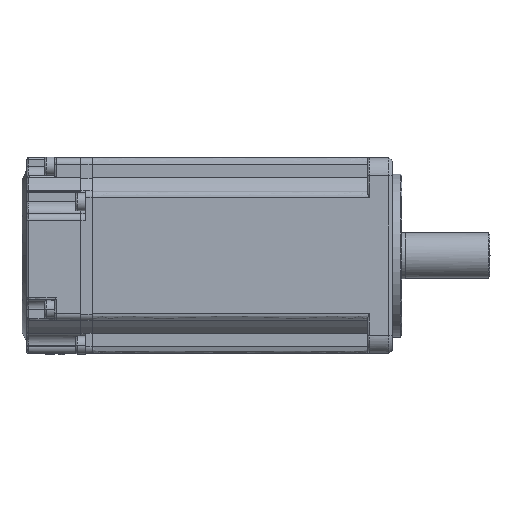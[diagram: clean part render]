
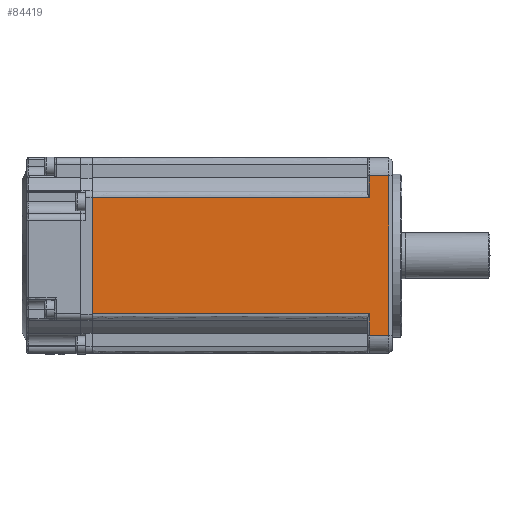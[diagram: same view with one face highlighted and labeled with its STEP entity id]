
A CAD part, front view. The second image highlights one B-rep face of the part: STEP entity #84419.
In plain terms, the highlighted free-form (B-spline) face has degree [1, 1] with [2, 2] control points.
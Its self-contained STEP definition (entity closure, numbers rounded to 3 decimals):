
#484 = ORIENTED_EDGE ( 'NONE', *, *, #108458, .T. ) ;
#2085 = B_SPLINE_CURVE_WITH_KNOTS ( 'NONE', 1,
 ( #47683, #133209 ),
 .UNSPECIFIED., .F., .F.,
 ( 2, 2 ),
 ( 0., 1. ),
 .UNSPECIFIED. ) ;
#9059 = CARTESIAN_POINT ( 'NONE',  ( 12.2, -30., 17.8 ) ) ;
#12287 = ORIENTED_EDGE ( 'NONE', *, *, #78275, .T. ) ;
#19597 = B_SPLINE_CURVE_WITH_KNOTS ( 'NONE', 1,
 ( #91610, #114380 ),
 .UNSPECIFIED., .F., .F.,
 ( 2, 2 ),
 ( 0., 1. ),
 .UNSPECIFIED. ) ;
#22373 = B_SPLINE_CURVE_WITH_KNOTS ( 'NONE', 1,
 ( #105873, #105188 ),
 .UNSPECIFIED., .F., .F.,
 ( 2, 2 ),
 ( 0., 1. ),
 .UNSPECIFIED. ) ;
#26520 = VERTEX_POINT ( 'NONE', #36885 ) ;
#27002 = CARTESIAN_POINT ( 'NONE',  ( 18.2, -30., 24.5 ) ) ;
#29985 = VERTEX_POINT ( 'NONE', #108629 ) ;
#32619 = CARTESIAN_POINT ( 'NONE',  ( 18.2, -30., -24.5 ) ) ;
#32766 = CARTESIAN_POINT ( 'NONE',  ( -72.8, -30., 24.5 ) ) ;
#36885 = CARTESIAN_POINT ( 'NONE',  ( 12.2, -30., 17.8 ) ) ;
#37074 = VERTEX_POINT ( 'NONE', #43608 ) ;
#40264 = CARTESIAN_POINT ( 'NONE',  ( 12.2, -30., 24.5 ) ) ;
#43608 = CARTESIAN_POINT ( 'NONE',  ( 18.2, -30., -24.5 ) ) ;
#46146 = VERTEX_POINT ( 'NONE', #64927 ) ;
#47683 = CARTESIAN_POINT ( 'NONE',  ( 12.2, -30., -17.8 ) ) ;
#48839 = ORIENTED_EDGE ( 'NONE', *, *, #100642, .T. ) ;
#49802 = ORIENTED_EDGE ( 'NONE', *, *, #124366, .T. ) ;
#52238 = CARTESIAN_POINT ( 'NONE',  ( 12.2, -30., -24.5 ) ) ;
#58056 = EDGE_CURVE ( 'NONE', #29985, #89152, #22373, .T. ) ;
#58536 = B_SPLINE_CURVE_WITH_KNOTS ( 'NONE', 1,
 ( #9059, #124968 ),
 .UNSPECIFIED., .F., .F.,
 ( 2, 2 ),
 ( 0., 1. ),
 .UNSPECIFIED. ) ;
#62466 = FACE_OUTER_BOUND ( 'NONE', #133457, .T. ) ;
#63821 = CARTESIAN_POINT ( 'NONE',  ( 12.2, -30., -17.8 ) ) ;
#64169 = B_SPLINE_CURVE_WITH_KNOTS ( 'NONE', 1,
 ( #70625, #40264 ),
 .UNSPECIFIED., .F., .F.,
 ( 2, 2 ),
 ( 0., 1. ),
 .UNSPECIFIED. ) ;
#64927 = CARTESIAN_POINT ( 'NONE',  ( 12.2, -30., 24.5 ) ) ;
#68405 = CARTESIAN_POINT ( 'NONE',  ( 18.2, -30., -24.5 ) ) ;
#70625 = CARTESIAN_POINT ( 'NONE',  ( 18.2, -30., 24.5 ) ) ;
#71979 = CARTESIAN_POINT ( 'NONE',  ( -72.8, -30., -17.8 ) ) ;
#72221 = VERTEX_POINT ( 'NONE', #75764 ) ;
#74710 = CARTESIAN_POINT ( 'NONE',  ( 18.2, -30., 24.5 ) ) ;
#74993 = EDGE_CURVE ( 'NONE', #99360, #37074, #93599, .T. ) ;
#75764 = CARTESIAN_POINT ( 'NONE',  ( 12.2, -30., -17.8 ) ) ;
#76724 = CARTESIAN_POINT ( 'NONE',  ( 12.2, -30., -24.5 ) ) ;
#77214 = B_SPLINE_CURVE_WITH_KNOTS ( 'NONE', 1,
 ( #103179, #63821 ),
 .UNSPECIFIED., .F., .F.,
 ( 2, 2 ),
 ( 0., 1. ),
 .UNSPECIFIED. ) ;
#78088 = CARTESIAN_POINT ( 'NONE',  ( -72.8, -30., -24.5 ) ) ;
#78275 = EDGE_CURVE ( 'NONE', #89152, #72221, #77214, .T. ) ;
#78337 = VERTEX_POINT ( 'NONE', #120344 ) ;
#83807 = ORIENTED_EDGE ( 'NONE', *, *, #92680, .T. ) ;
#84419 = ADVANCED_FACE ( 'NONE', ( #62466 ), #94040, .T. ) ;
#86927 = B_SPLINE_CURVE_WITH_KNOTS ( 'NONE', 1,
 ( #32619, #74710 ),
 .UNSPECIFIED., .F., .F.,
 ( 2, 2 ),
 ( 0., 1. ),
 .UNSPECIFIED. ) ;
#89152 = VERTEX_POINT ( 'NONE', #71979 ) ;
#91610 = CARTESIAN_POINT ( 'NONE',  ( 12.2, -30., 24.5 ) ) ;
#91734 = EDGE_CURVE ( 'NONE', #37074, #78337, #86927, .T. ) ;
#92593 = ORIENTED_EDGE ( 'NONE', *, *, #91734, .T. ) ;
#92680 = EDGE_CURVE ( 'NONE', #26520, #29985, #58536, .T. ) ;
#93599 = B_SPLINE_CURVE_WITH_KNOTS ( 'NONE', 1,
 ( #76724, #68405 ),
 .UNSPECIFIED., .F., .F.,
 ( 2, 2 ),
 ( 0., 1. ),
 .UNSPECIFIED. ) ;
#94040 = B_SPLINE_SURFACE_WITH_KNOTS ( 'NONE', 1, 1, ( 
 ( #32766, #27002 ),
 ( #78088, #120185 ) ),
 .UNSPECIFIED., .F., .F., .F.,
 ( 2, 2 ),
 ( 2, 2 ),
 ( 0., 1. ),
 ( 0., 1. ),
 .UNSPECIFIED. ) ;
#99360 = VERTEX_POINT ( 'NONE', #52238 ) ;
#100642 = EDGE_CURVE ( 'NONE', #72221, #99360, #2085, .T. ) ;
#103179 = CARTESIAN_POINT ( 'NONE',  ( -72.8, -30., -17.8 ) ) ;
#105188 = CARTESIAN_POINT ( 'NONE',  ( -72.8, -30., -17.8 ) ) ;
#105491 = ORIENTED_EDGE ( 'NONE', *, *, #74993, .T. ) ;
#105873 = CARTESIAN_POINT ( 'NONE',  ( -72.8, -30., 17.8 ) ) ;
#108458 = EDGE_CURVE ( 'NONE', #46146, #26520, #19597, .T. ) ;
#108629 = CARTESIAN_POINT ( 'NONE',  ( -72.8, -30., 17.8 ) ) ;
#114380 = CARTESIAN_POINT ( 'NONE',  ( 12.2, -30., 17.8 ) ) ;
#120185 = CARTESIAN_POINT ( 'NONE',  ( 18.2, -30., -24.5 ) ) ;
#120344 = CARTESIAN_POINT ( 'NONE',  ( 18.2, -30., 24.5 ) ) ;
#124366 = EDGE_CURVE ( 'NONE', #78337, #46146, #64169, .T. ) ;
#124580 = ORIENTED_EDGE ( 'NONE', *, *, #58056, .T. ) ;
#124968 = CARTESIAN_POINT ( 'NONE',  ( -72.8, -30., 17.8 ) ) ;
#133209 = CARTESIAN_POINT ( 'NONE',  ( 12.2, -30., -24.5 ) ) ;
#133457 = EDGE_LOOP ( 'NONE', ( #12287, #48839, #105491, #92593, #49802, #484, #83807, #124580 ) ) ;
